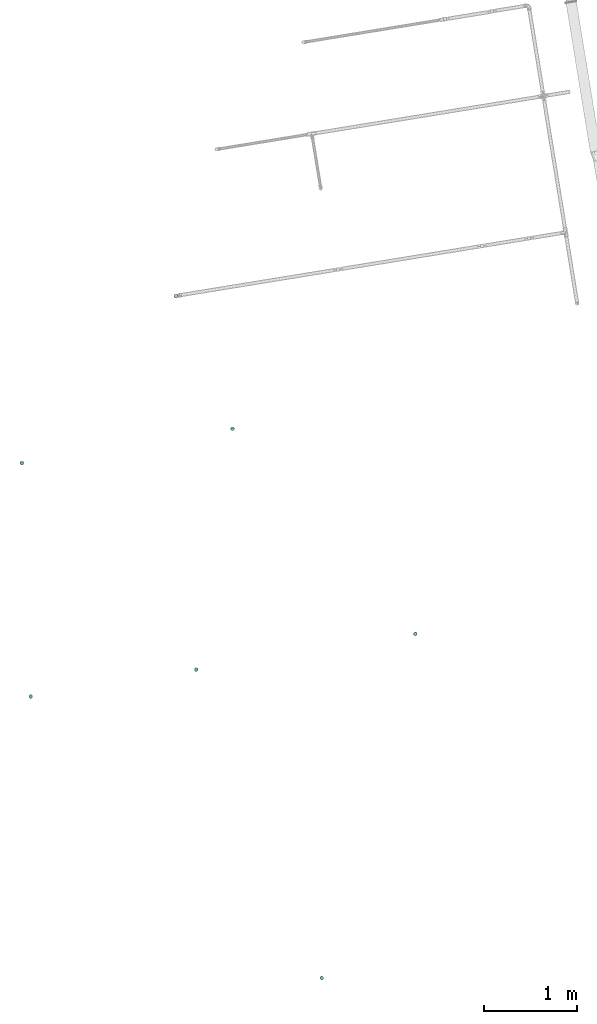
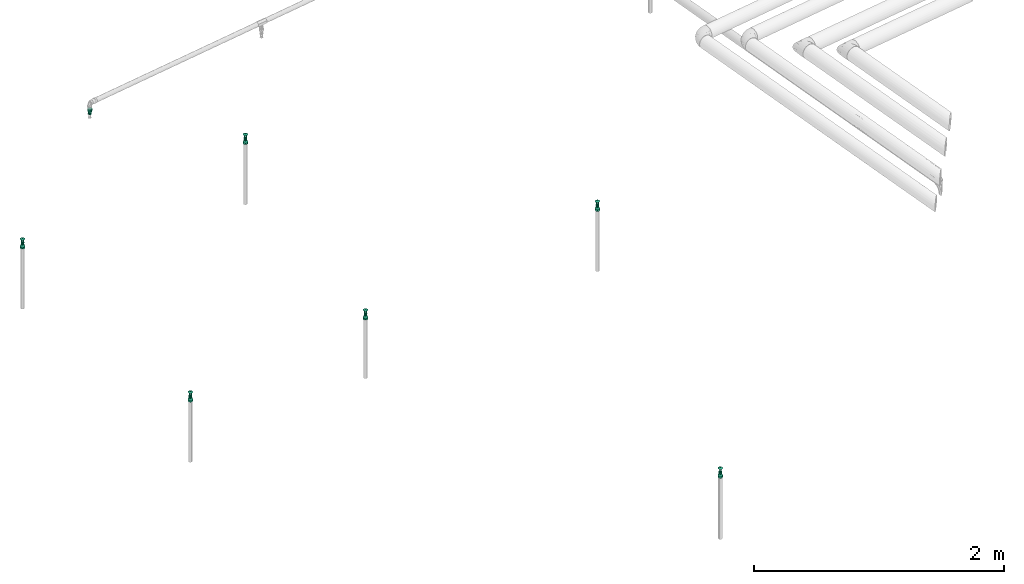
# One storey, part 27 of 46: 7 flow fittings, 6 flow terminals.
"""IFC2X3 building model written with IfcOpenShell, lengths in millimetres."""

from ifc_helpers import new_model, entity, si_unit, converted_unit, derived_unit, direction, frame, origin, origin_with_axes, place, context, subcontext, project, spatial, faceted_brep, source, transform, mapped, material, type_object, element, save


model = new_model("IFC2X3")

# Units and contexts
model_context = context("Model", 3, precision=0.01, world=origin(), true_north=direction((6.12323399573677e-17, 1.0)))
plan_context = context("Plan", 3, precision=1e-05, world=origin_with_axes())
body_context = subcontext(model_context, "Body", "Model", "MODEL_VIEW")
ifc_project = project(units=[converted_unit("PLANEANGLEUNIT", "DEGREE", entity("IfcPositiveLengthMeasure", 0.0174532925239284), si_unit("PLANEANGLEUNIT", "RADIAN"), dimensions=[0, 0, 0, 0, 0, 0, 0]), si_unit("AREAUNIT", "SQUARE_METRE"), si_unit("LENGTHUNIT", "METRE", prefix="MILLI"), si_unit("MASSUNIT", "GRAM", prefix="KILO"), si_unit("POWERUNIT", "WATT"), si_unit("PRESSUREUNIT", "PASCAL", prefix="KILO"), si_unit("FORCEUNIT", "NEWTON", prefix="KILO"), si_unit("ELECTRICVOLTAGEUNIT", "VOLT"), si_unit("ELECTRICCURRENTUNIT", "AMPERE"), si_unit("THERMODYNAMICTEMPERATUREUNIT", "DEGREE_CELSIUS"), si_unit("TIMEUNIT", "SECOND"), si_unit("VOLUMEUNIT", "CUBIC_METRE"), derived_unit("LINEARVELOCITYUNIT", [(si_unit("LENGTHUNIT", "METRE"), 1), (si_unit("TIMEUNIT", "SECOND"), -1)]), derived_unit("VOLUMETRICFLOWRATEUNIT", [(si_unit("VOLUMEUNIT", "CUBIC_METRE"), 1), (si_unit("TIMEUNIT", "SECOND"), -1)]), derived_unit("THERMALTRANSMITTANCEUNIT", [(si_unit("POWERUNIT", "WATT"), 1), (si_unit("THERMODYNAMICTEMPERATUREUNIT", "KELVIN"), -1), (si_unit("AREAUNIT", "SQUARE_METRE"), -1)]), derived_unit("SOUNDPRESSUREUNIT", [(si_unit("PRESSUREUNIT", "PASCAL"), 1)])], contexts=[model_context, plan_context])

# Site, building, storey
site_placement = place(None, frame((-3.09682673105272e-06, 1.93776733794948e-05, 0.0), z_axis=(0.0, 0.0, 1.0), x_axis=(-0.160806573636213, 0.986985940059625, 0.0)))
site = spatial("IfcSite", under=ifc_project, at=site_placement, Name="Default", CompositionType="ELEMENT")
building_placement = place(site_placement, frame((0.0, 0.0, 0.0), z_axis=(0.0, 0.0, 1.0), x_axis=(1.0, -2.77555756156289e-17, 0.0)))
building = spatial("IfcBuilding", under=site, at=building_placement, Name="Bygning (endres i Project Information)", CompositionType="ELEMENT")
storey_placement = place(building_placement, frame((0.0, 0.0, 51360.0000000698), z_axis=(0.0, 0.0, 1.0), x_axis=(1.0, -2.77555756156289e-17, 0.0)))
storey = spatial("IfcBuildingStorey", under=building, at=storey_placement, Name="H01-Nivå D+0,36", CompositionType="ELEMENT", Elevation=51360.0000000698)

# Flow fittings
ifc_material = material(Name="3320.001")
pipe_fitting_type_1 = type_object("IfcPipeFittingType", Name="RS_53_PIF_UN_Reducing-Socket-EN10241_MC_gen:RS_53_PIF_UN_Reducing-Socket-EN10241_MC_gen", PredefinedType="NOTDEFINED", material=ifc_material)
shared_shape_1 = source(origin(), body_context, "Body", "Brep", [
    faceted_brep([(0.0, 3.49405710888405, 13.0399986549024), (0.0, 6.75000000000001, 11.6913429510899), (0.0, 9.5459415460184, 9.54594154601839), (0.0, 11.6913429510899, 6.74999999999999), (0.0, 13.0399986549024, 3.49405710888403), (0.0, 13.5, 0.0), (0.0, 13.0399986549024, -3.49405710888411), (0.0, 11.6913429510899, -6.75000000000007), (0.0, 9.54594154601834, -9.54594154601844), (0.0, 6.74999999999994, -11.69134295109), (0.0, 3.49405710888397, -13.0399986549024), (0.0, 0.0, -13.5), (0.0, -3.49405710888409, -13.0399986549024), (0.0, -6.75000000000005, -11.6913429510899), (0.0, -9.54594154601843, -9.54594154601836), (0.0, -11.6913429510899, -6.74999999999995), (0.0, -13.0399986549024, -3.49405710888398), (0.0, -13.5, 0.0), (0.0, -13.0399986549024, 3.49405710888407), (0.0, -11.6913429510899, 6.75000000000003), (0.0, -9.54594154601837, 9.54594154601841), (0.0, -6.74999999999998, 11.6913429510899), (0.0, -3.49405710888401, 13.0399986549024), (0.0, 0.0, 13.5), (17.0, -4.54589529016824, -12.4935366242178), (17.0, -10.3411162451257, -8.67820919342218), (17.0, -11.5134189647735, -6.64791735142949), (17.0, -12.6857216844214, -4.61762550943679), (17.0, -6.74902240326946, -11.6919073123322), (17.0, -8.54506932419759, -10.1850582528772), (17.0, -13.0928608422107, -2.30881275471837), (17.0, -13.5, 0.0), (17.0, -2.34276817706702, -13.2951659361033), (17.0, 2.34610313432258, -13.2945778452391), (17.0, 0.00166747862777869, -13.2948718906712), (17.0, 8.54762393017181, -10.1829144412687), (17.0, 4.5490290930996, -12.4923959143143), (17.0, 6.75195505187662, -11.6902139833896), (17.0, 12.6868795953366, -4.61444320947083), (17.0, 11.5150862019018, -6.6450290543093), (17.0, 10.343292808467, -8.67561489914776), (17.0, 13.5, 0.0), (17.0, 10.3432928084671, 8.67561489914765), (17.0, 11.5150862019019, 6.64502905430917), (17.0, 12.6868795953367, 4.61444320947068), (17.0, 6.75195505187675, 11.6902139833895), (17.0, 8.54762393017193, 10.1829144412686), (17.0, 2.34610313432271, 13.2945778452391), (17.0, 4.54902909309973, 12.4923959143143), (17.0, -2.3427681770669, 13.2951659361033), (17.0, 0.00166747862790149, 13.2948718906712), (17.0, -12.6857216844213, 4.61762550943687), (17.0, -8.5450693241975, 10.1850582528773), (17.0, -13.0928608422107, 2.30881275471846), (17.0, -11.5134189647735, 6.64791735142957), (17.0, -10.3411162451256, 8.67820919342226), (17.0, -4.54589529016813, 12.4935366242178), (17.0, -6.74902240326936, 11.6919073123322), (34.0, -18.5588149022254, -6.75521201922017), (34.0, 18.5598439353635, -6.75238425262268), (34.0, -9.87413131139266, -17.104503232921), (34.0, -3.42823440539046, -19.4501853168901), (34.0, 0.00148173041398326, -19.4499240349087), (34.0, -6.65118285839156, -18.2773442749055), (34.0, -12.5015396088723, -14.9000353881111), (34.0, -15.1289479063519, -12.6955675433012), (34.0, -16.8438814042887, -9.72538978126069), (34.0, -19.1648351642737, -3.3184704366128), (34.0, 9.87673730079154, -17.1029985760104), (34.0, 15.1308820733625, -12.6932622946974), (34.0, 3.43119786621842, -19.4496627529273), (34.0, 6.65396758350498, -18.2763306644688), (34.0, 16.845363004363, -9.72282327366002), (34.0, 12.503809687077, -14.8981304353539), (34.0, 19.7500000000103, 0.0), (34.0, -19.7499999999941, 0.0), (34.0, -19.1544074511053, 3.37760600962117), (34.0, -6.65118285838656, 18.2773442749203), (34.0, -12.5015396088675, 14.9000353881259), (34.0, 3.43119786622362, 19.4496627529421), (34.0, 6.65396758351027, 18.2763306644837), (34.0, 9.87673730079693, 17.1029985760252), (34.0, 12.5038096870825, 14.8981304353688), (34.0, 15.1308820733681, 12.6932622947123), (34.0, 16.8453630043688, 9.72282327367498), (34.0, 18.5598439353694, 6.75238425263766), (34.0, -16.843881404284, 9.7253897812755), (34.0, -18.5588149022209, 6.75521201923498), (34.0, -3.42823440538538, 19.4501853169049), (34.0, 0.00148173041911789, 19.4499240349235), (34.0, -9.87413131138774, 17.1045032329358), (34.0, -15.1289479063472, 12.695567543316), (51.0, 5.11167614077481, -19.0770350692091), (51.0, 9.87500000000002, -17.1040017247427), (51.0, 13.9653589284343, -13.9653589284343), (51.0, 17.1040017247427, -9.87499999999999), (51.0, 19.0770350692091, -5.11167614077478), (51.0, 19.75, 0.0), (51.0, 19.0770350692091, 5.1116761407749), (51.0, 17.1040017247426, 9.8750000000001), (51.0, 13.9653589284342, 13.9653589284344), (51.0, 9.87499999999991, 17.1040017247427), (51.0, 5.11167614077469, 19.0770350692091), (51.0, 0.0, 19.75), (51.0, -5.11167614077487, 19.0770350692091), (51.0, -9.87500000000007, 17.1040017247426), (51.0, -13.9653589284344, 13.9653589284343), (51.0, -17.1040017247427, 9.87499999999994), (51.0, -19.0770350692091, 5.11167614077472), (51.0, -19.75, 0.0), (51.0, -19.0770350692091, -5.11167614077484), (51.0, -17.1040017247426, -9.87500000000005), (51.0, -13.9653589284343, -13.9653589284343), (51.0, -9.87499999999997, -17.1040017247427), (51.0, -5.11167614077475, -19.0770350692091), (51.0, 0.0, -19.75)], [[[0, 1, 2, 3, 4, 5, 6, 7, 8, 9, 10, 11, 12, 13, 14, 15, 16, 17, 18, 19, 20, 21, 22, 23]], [[24, 13, 12]], [[15, 14, 25]], [[15, 25, 26, 27]], [[28, 29, 13]], [[16, 27, 30]], [[30, 31, 17]], [[30, 17, 16]], [[12, 32, 24]], [[25, 14, 29]], [[11, 33, 34, 32]], [[35, 9, 8]], [[13, 29, 14]], [[24, 28, 13]], [[33, 11, 10]], [[36, 9, 37]], [[7, 38, 39, 40]], [[9, 36, 10]], [[7, 6, 38]], [[8, 40, 35]], [[33, 10, 36]], [[11, 32, 12]], [[7, 40, 8]], [[6, 41, 38]], [[15, 27, 16]], [[6, 5, 41]], [[35, 37, 9]], [[41, 5, 4]], [[3, 2, 42]], [[3, 42, 43, 44]], [[45, 46, 1]], [[44, 41, 4]], [[0, 47, 48]], [[42, 2, 46]], [[23, 49, 50, 47]], [[1, 46, 2]], [[48, 1, 0]], [[48, 45, 1]], [[3, 44, 4]], [[22, 49, 23]], [[19, 18, 51]], [[52, 21, 20]], [[17, 53, 18]], [[19, 51, 54, 55]], [[17, 31, 53]], [[56, 49, 22]], [[21, 57, 56]], [[19, 55, 20]], [[21, 56, 22]], [[20, 55, 52]], [[23, 47, 0]], [[53, 51, 18]], [[52, 57, 21]], [[58, 30, 27]], [[38, 59, 39]], [[28, 60, 29]], [[61, 32, 62]], [[63, 60, 28]], [[64, 65, 25]], [[64, 25, 29]], [[66, 58, 27]], [[66, 27, 26]], [[67, 31, 30]], [[26, 65, 66]], [[62, 32, 34]], [[25, 65, 26]], [[37, 68, 36]], [[29, 60, 64]], [[40, 69, 35]], [[34, 33, 70]], [[71, 70, 33]], [[71, 33, 36]], [[34, 70, 62]], [[72, 69, 40]], [[73, 68, 37]], [[74, 38, 41]], [[31, 67, 75]], [[39, 59, 72]], [[32, 61, 24]], [[35, 69, 73]], [[74, 59, 38]], [[58, 67, 30]], [[63, 28, 24]], [[24, 61, 63]], [[73, 37, 35]], [[36, 68, 71]], [[72, 40, 39]], [[41, 44, 74]], [[31, 76, 53]], [[57, 77, 56]], [[55, 78, 52]], [[47, 79, 80]], [[45, 81, 82]], [[46, 83, 42]], [[42, 83, 84]], [[43, 85, 44]], [[74, 44, 85]], [[46, 82, 83]], [[84, 85, 43]], [[51, 86, 54]], [[87, 51, 53]], [[81, 48, 80]], [[48, 81, 45]], [[49, 88, 89]], [[77, 57, 90]], [[56, 88, 49]], [[50, 79, 47]], [[86, 51, 87]], [[78, 55, 91]], [[75, 76, 31]], [[47, 80, 48]], [[77, 88, 56]], [[49, 89, 50]], [[86, 91, 54]], [[53, 76, 87]], [[45, 82, 46]], [[90, 52, 78]], [[42, 84, 43]], [[52, 90, 57]], [[50, 89, 79]], [[54, 91, 55]], [[92, 93, 94, 95, 96, 97, 98, 99, 100, 101, 102, 103, 104, 105, 106, 107, 108, 109, 110, 111, 112, 113, 114, 115]], [[74, 97, 96]], [[95, 94, 69]], [[95, 69, 72, 59]], [[68, 73, 93]], [[59, 74, 96]], [[92, 70, 71]], [[69, 94, 73]], [[115, 61, 62, 70]], [[93, 73, 94]], [[61, 115, 114]], [[111, 65, 112]], [[63, 113, 60]], [[95, 59, 96]], [[71, 68, 93]], [[64, 60, 113]], [[109, 75, 67]], [[113, 63, 114]], [[112, 65, 64]], [[61, 114, 63]], [[71, 93, 92]], [[109, 67, 110]], [[58, 111, 110]], [[110, 67, 58]], [[64, 113, 112]], [[66, 65, 111, 58]], [[115, 70, 92]], [[77, 105, 104]], [[107, 106, 91]], [[107, 91, 86, 87]], [[90, 78, 105]], [[108, 87, 76]], [[76, 109, 108]], [[107, 87, 108]], [[104, 88, 77]], [[91, 106, 78]], [[103, 79, 89, 88]], [[77, 90, 105]], [[105, 78, 106]], [[76, 75, 109]], [[79, 103, 102]], [[80, 101, 81]], [[99, 85, 84, 83]], [[101, 80, 102]], [[99, 98, 85]], [[100, 83, 82]], [[79, 102, 80]], [[99, 83, 100]], [[82, 81, 101]], [[98, 74, 85]], [[98, 97, 74]], [[103, 88, 104]], [[82, 101, 100]]]),
])
flow_fitting_1_placement = place(storey_placement, frame((1002297.38520526, -342381.062917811, 3353.0), z_axis=(1.0, -2.77555756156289e-17, 0.0), x_axis=(0.0, 0.0, 1.0)))
element("IfcFlowFitting", 1, at=flow_fitting_1_placement, inside=storey, type_object=pipe_fitting_type_1, material=ifc_material, Name="RS_53_PIF_UN_Reducing-Socket-EN10241_MC_gen:RS_53_PIF_UN_Reducing-Socket-EN10241_MC_gen", ObjectType="RS_53_PIF_UN_Reducing-Socket-EN10241_MC_gen:RS_53_PIF_UN_Reducing-Socket-EN10241_MC_gen", context=body_context, shape_type="MappedRepresentation", body=[
    mapped(shared_shape_1, transform((0.0, 0.0, 0.0), scale=1.0)),
])
pipe_fitting_type_2 = type_object("IfcPipeFittingType", Name="RS_53_PIF_UN_Reducing-Socket-EN10241_MC_gen:RS_53_PIF_UN_Reducing-Socket-EN10241_MC_gen", PredefinedType="NOTDEFINED", material=ifc_material)
flow_fitting_2_placement = place(storey_placement, frame((994788.367643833, -342750.8112969, 3770.81212530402), z_axis=(-2.77555756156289e-17, -1.0, 0.0), x_axis=(0.0, 0.0, -1.0)))
element("IfcFlowFitting", 2, at=flow_fitting_2_placement, inside=storey, type_object=pipe_fitting_type_2, material=ifc_material, Name="RS_53_PIF_UN_Reducing-Socket-EN10241_MC_gen:RS_53_PIF_UN_Reducing-Socket-EN10241_MC_gen", ObjectType="RS_53_PIF_UN_Reducing-Socket-EN10241_MC_gen:RS_53_PIF_UN_Reducing-Socket-EN10241_MC_gen", context=body_context, shape_type="MappedRepresentation", body=[
    mapped(shared_shape_1, transform((0.0, 0.0, 0.0), scale=1.0)),
])
pipe_fitting_type_3 = type_object("IfcPipeFittingType", Name="RS_53_PIF_UN_Reducing-Socket-EN10241_MC_gen:RS_53_PIF_UN_Reducing-Socket-EN10241_MC_gen", PredefinedType="NOTDEFINED", material=ifc_material)
shared_shape_2 = source(origin(), body_context, "Body", "Brep", [
    faceted_brep([(0.0, 5.11167614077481, 19.0770350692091), (0.0, 9.87500000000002, 17.1040017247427), (0.0, 13.9653589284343, 13.9653589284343), (0.0, 17.1040017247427, 9.87499999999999), (0.0, 19.0770350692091, 5.11167614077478), (0.0, 19.75, 0.0), (0.0, 19.0770350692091, -5.1116761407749), (0.0, 17.1040017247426, -9.8750000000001), (0.0, 13.9653589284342, -13.9653589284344), (0.0, 9.87499999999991, -17.1040017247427), (0.0, 5.11167614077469, -19.0770350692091), (0.0, 0.0, -19.75), (0.0, -5.11167614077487, -19.0770350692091), (0.0, -9.87500000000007, -17.1040017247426), (0.0, -13.9653589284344, -13.9653589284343), (0.0, -17.1040017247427, -9.87499999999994), (0.0, -19.0770350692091, -5.11167614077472), (0.0, -19.75, 0.0), (0.0, -19.0770350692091, 5.11167614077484), (0.0, -17.1040017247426, 9.87500000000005), (0.0, -13.9653589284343, 13.9653589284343), (0.0, -9.87499999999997, 17.1040017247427), (0.0, -5.11167614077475, 19.0770350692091), (0.0, 0.0, 19.75), (17.0, -6.65118285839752, -18.277344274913), (17.0, -15.1289479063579, -12.6955675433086), (17.0, -16.8438814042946, -9.72538978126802), (17.0, -18.5588149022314, -6.7552120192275), (17.0, -9.87413131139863, -17.1045032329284), (17.0, -12.5015396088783, -14.9000353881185), (17.0, -19.1544074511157, -3.37760600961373), (17.0, -3.42823440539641, -19.4501853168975), (17.0, 3.43119786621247, -19.4496627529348), (17.0, 0.0014817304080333, -19.4499240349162), (17.0, -19.75, 0.0), (17.0, 6.65396758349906, -18.2763306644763), (17.0, 9.87673730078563, -17.1029985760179), (17.0, 18.5598439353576, -6.75238425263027), (17.0, 16.8453630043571, -9.7228232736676), (17.0, 15.1308820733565, -12.6932622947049), (17.0, 12.5038096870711, -14.8981304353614), (17.0, 19.75, 0.0), (17.0, 15.1308820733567, 12.6932622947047), (17.0, 16.8453630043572, 9.72282327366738), (17.0, 18.5598439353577, 6.75238425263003), (17.0, 9.87673730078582, 17.1029985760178), (17.0, 12.5038096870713, 14.8981304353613), (17.0, 3.43119786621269, 19.4496627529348), (17.0, 6.65396758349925, 18.2763306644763), (17.0, -3.4282344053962, 19.4501853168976), (17.0, 0.00148173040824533, 19.4499240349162), (17.0, -15.1289479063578, 12.6955675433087), (17.0, -6.65118285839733, 18.277344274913), (17.0, -9.87413131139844, 17.1045032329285), (17.0, -12.5015396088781, 14.9000353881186), (17.0, -19.1544074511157, 3.37760600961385), (17.0, -18.5588149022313, 6.75521201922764), (17.0, -16.8438814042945, 9.72538978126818), (34.0, 13.5000000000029, 0.0), (34.0, 12.6868795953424, -4.61444320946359), (34.0, -4.54589529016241, -12.4935366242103), (34.0, -2.34276817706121, -13.2951659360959), (34.0, 6.75195505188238, -11.6902139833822), (34.0, 0.00166747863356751, -13.2948718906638), (34.0, 2.34610313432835, -13.2945778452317), (34.0, 10.3432928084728, -8.67561489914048), (34.0, 8.54762393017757, -10.1829144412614), (34.0, 4.54902909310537, -12.492395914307), (34.0, 11.5150862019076, -6.64502905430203), (34.0, -6.74902240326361, -11.6919073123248), (34.0, -13.4999999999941, 0.0), (34.0, -13.0928608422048, -2.30881275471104), (34.0, -10.3411162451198, -8.6782091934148), (34.0, -8.54506932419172, -10.1850582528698), (34.0, -12.6857216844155, -4.61762550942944), (34.0, -11.5134189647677, -6.64791735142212), (34.0, -13.0928608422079, 2.30881275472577), (34.0, -12.6857216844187, 4.6176255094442), (34.0, 2.34610313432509, 13.2945778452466), (34.0, 4.54902909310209, 12.4923959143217), (34.0, -10.3411162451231, 8.67820919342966), (34.0, 0.00166747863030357, 13.2948718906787), (34.0, -6.74902240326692, 11.6919073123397), (34.0, -8.54506932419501, 10.1850582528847), (34.0, -11.5134189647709, 6.64791735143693), (34.0, -2.34276817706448, 13.2951659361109), (34.0, -4.5458952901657, 12.4935366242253), (34.0, 12.6868795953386, 4.61444320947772), (34.0, 11.5150862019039, 6.64502905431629), (34.0, 10.3432928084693, 8.67561489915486), (34.0, 6.7519550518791, 11.6902139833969), (34.0, 8.54762393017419, 10.1829144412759), (51.0, 3.49405710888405, -13.0399986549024), (51.0, 6.75000000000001, -11.6913429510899), (51.0, 9.5459415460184, -9.54594154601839), (51.0, 11.6913429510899, -6.74999999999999), (51.0, 13.0399986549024, -3.49405710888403), (51.0, 13.5, 0.0), (51.0, 13.0399986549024, 3.49405710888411), (51.0, 11.6913429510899, 6.75000000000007), (51.0, 9.54594154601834, 9.54594154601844), (51.0, 6.74999999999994, 11.69134295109), (51.0, 3.49405710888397, 13.0399986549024), (51.0, 0.0, 13.5), (51.0, -3.49405710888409, 13.0399986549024), (51.0, -6.75000000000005, 11.6913429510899), (51.0, -9.54594154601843, 9.54594154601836), (51.0, -11.6913429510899, 6.74999999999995), (51.0, -13.0399986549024, 3.49405710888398), (51.0, -13.5, 0.0), (51.0, -13.0399986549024, -3.49405710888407), (51.0, -11.6913429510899, -6.75000000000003), (51.0, -9.54594154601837, -9.54594154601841), (51.0, -6.74999999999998, -11.6913429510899), (51.0, -3.49405710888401, -13.0399986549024), (51.0, 0.0, -13.5)], [[[0, 1, 2, 3, 4, 5, 6, 7, 8, 9, 10, 11, 12, 13, 14, 15, 16, 17, 18, 19, 20, 21, 22, 23]], [[24, 13, 12]], [[15, 14, 25]], [[15, 25, 26, 27]], [[28, 29, 13]], [[16, 27, 30]], [[30, 17, 16]], [[15, 27, 16]], [[12, 31, 24]], [[25, 14, 29]], [[11, 32, 33, 31]], [[24, 28, 13]], [[13, 29, 14]], [[30, 34, 17]], [[32, 11, 10]], [[35, 9, 36]], [[7, 37, 38, 39]], [[9, 35, 10]], [[7, 6, 37]], [[8, 39, 40]], [[32, 10, 35]], [[7, 39, 8]], [[40, 36, 9]], [[6, 41, 37]], [[6, 5, 41]], [[11, 31, 12]], [[40, 9, 8]], [[41, 5, 4]], [[3, 2, 42]], [[3, 42, 43, 44]], [[45, 46, 1]], [[44, 41, 4]], [[0, 47, 48]], [[42, 2, 46]], [[23, 49, 50, 47]], [[1, 46, 2]], [[49, 23, 22]], [[19, 51, 20]], [[52, 21, 53]], [[3, 44, 4]], [[48, 45, 1]], [[54, 53, 21]], [[17, 34, 55]], [[21, 52, 22]], [[20, 51, 54]], [[49, 22, 52]], [[48, 1, 0]], [[17, 55, 18]], [[56, 19, 18]], [[18, 55, 56]], [[54, 21, 20]], [[57, 51, 19, 56]], [[23, 47, 0]], [[41, 58, 59]], [[60, 31, 61]], [[40, 62, 36]], [[63, 32, 64]], [[65, 39, 38]], [[64, 32, 35]], [[61, 33, 63]], [[37, 41, 59]], [[62, 40, 66]], [[40, 39, 66]], [[35, 36, 67]], [[65, 38, 68]], [[37, 68, 38]], [[64, 35, 67]], [[61, 31, 33]], [[69, 28, 24]], [[69, 24, 60]], [[70, 30, 71]], [[72, 29, 73]], [[30, 70, 34]], [[74, 27, 26]], [[68, 37, 59]], [[72, 25, 29]], [[27, 74, 71]], [[31, 60, 24]], [[29, 28, 73]], [[75, 26, 25]], [[67, 36, 62]], [[66, 39, 65]], [[27, 71, 30]], [[74, 26, 75]], [[73, 28, 69]], [[63, 33, 32]], [[75, 25, 72]], [[56, 76, 77]], [[48, 78, 79]], [[54, 51, 80]], [[81, 47, 50]], [[57, 56, 77]], [[52, 53, 82]], [[82, 53, 83]], [[55, 70, 76]], [[70, 55, 34]], [[84, 51, 57]], [[50, 85, 81]], [[56, 55, 76]], [[86, 49, 52]], [[83, 53, 54]], [[81, 78, 47]], [[48, 47, 78]], [[80, 51, 84]], [[49, 85, 50]], [[87, 44, 88]], [[87, 58, 41]], [[43, 42, 89]], [[57, 77, 84]], [[46, 45, 90]], [[85, 49, 86]], [[88, 44, 43]], [[54, 80, 83]], [[91, 42, 46]], [[52, 82, 86]], [[89, 42, 91]], [[87, 41, 44]], [[90, 45, 79]], [[46, 90, 91]], [[79, 45, 48]], [[43, 89, 88]], [[92, 93, 94, 95, 96, 97, 98, 99, 100, 101, 102, 103, 104, 105, 106, 107, 108, 109, 110, 111, 112, 113, 114, 115]], [[58, 97, 96]], [[95, 94, 65]], [[95, 65, 68, 59]], [[62, 66, 93]], [[59, 58, 96]], [[92, 64, 67]], [[65, 94, 66]], [[115, 61, 63, 64]], [[93, 66, 94]], [[67, 93, 92]], [[67, 62, 93]], [[95, 59, 96]], [[114, 61, 115]], [[111, 110, 74]], [[73, 113, 112]], [[109, 71, 110]], [[111, 74, 75, 72]], [[109, 70, 71]], [[60, 61, 114]], [[113, 69, 60]], [[111, 72, 112]], [[113, 60, 114]], [[112, 72, 73]], [[115, 64, 92]], [[71, 74, 110]], [[73, 69, 113]], [[86, 105, 104]], [[107, 106, 80]], [[107, 80, 84, 77]], [[82, 83, 105]], [[108, 77, 76]], [[76, 70, 109]], [[76, 109, 108]], [[104, 85, 86]], [[80, 106, 83]], [[103, 78, 81, 85]], [[91, 101, 100]], [[105, 83, 106]], [[86, 82, 105]], [[78, 103, 102]], [[79, 101, 90]], [[99, 87, 88, 89]], [[101, 79, 102]], [[99, 98, 87]], [[100, 89, 91]], [[78, 102, 79]], [[103, 85, 104]], [[99, 89, 100]], [[98, 58, 87]], [[107, 77, 108]], [[98, 97, 58]], [[91, 90, 101]]]),
])
for number, where, z_axis, x_axis in (
    (3, (1000788.36764383, -342753.710293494, 3719.81211897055), (2.77555756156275e-17, 0.99999999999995, 3.16675188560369e-07), (-6.61744490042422e-24, -3.16675188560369e-07, 0.99999999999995)),
    (4, (1000788.36764383, -340453.710293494, 3719.81211897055), (2.77555756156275e-17, 0.99999999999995, 3.16675188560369e-07), (-6.61744490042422e-24, -3.16675188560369e-07, 0.99999999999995)),
    (5, (998288.367643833, -344342.799023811, 3719.81212530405), (2.77555756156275e-17, 0.99999999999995, 3.16675188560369e-07), (-6.61744490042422e-24, -3.16675188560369e-07, 0.99999999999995)),
    (6, (998288.367643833, -341949.81048387, 3719.81212530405), (2.77555756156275e-17, 0.99999999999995, 3.16675188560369e-07), (-6.61744490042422e-24, -3.16675188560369e-07, 0.99999999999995)),
    (7, (998288.367643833, -340142.799023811, 3719.81212530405), (2.77555756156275e-17, 0.99999999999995, 3.16675188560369e-07), (-6.61744490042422e-24, -3.16675188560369e-07, 0.99999999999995)),
):
    element("IfcFlowFitting", number, at=place(storey_placement, frame(where, z_axis=z_axis, x_axis=x_axis)), inside=storey, type_object=pipe_fitting_type_3, material=ifc_material, Name="RS_53_PIF_UN_Reducing-Socket-EN10241_MC_gen:RS_53_PIF_UN_Reducing-Socket-EN10241_MC_gen", ObjectType="RS_53_PIF_UN_Reducing-Socket-EN10241_MC_gen:RS_53_PIF_UN_Reducing-Socket-EN10241_MC_gen", context=body_context, shape_type="MappedRepresentation", body=[
        mapped(shared_shape_2, transform((0.0, 0.0, 0.0), scale=1.0)),
    ])

# Flow terminals
fire_suppression_terminal_type = type_object("IfcFireSuppressionTerminalType", Name="SU-15-K80-68DGR-STD:SU-15-K80-68DGR-STD", PredefinedType="NOTDEFINED", material=ifc_material)
shared_shape_3 = source(origin(), body_context, "Body", "Brep", [
    faceted_brep([(-2.5, 0.0, 62.0), (0.0, -2.5, 62.0), (2.5, 0.0, 62.0), (0.0, 2.5, 62.0), (0.0, 2.5, 59.0), (2.5, 0.0, 59.0), (0.0, -2.5, 59.0), (-2.5, 0.0, 59.0)], [[[0, 1, 2, 3]], [[4, 5, 6, 7]], [[3, 4, 7, 0]], [[2, 5, 4, 3]], [[1, 6, 5, 2]], [[0, 7, 6, 1]]]),
    faceted_brep([(1.0, 13.5, 47.0), (1.0, -13.5, 47.0), (1.0, -13.5, 19.0), (1.0, -8.5, 19.0), (1.0, -8.5, 42.0), (1.0, 8.5, 42.0), (1.0, 8.5, 19.0), (1.0, 13.5, 19.0), (-1.0, 13.5, 47.0), (-1.0, 13.5, 19.0), (-1.0, 8.5, 19.0), (-1.0, 8.5, 42.0), (-1.0, -8.5, 42.0), (-1.0, -8.5, 19.0), (-1.0, -13.5, 19.0), (-1.0, -13.5, 47.0)], [[[0, 1, 2, 3, 4, 5, 6, 7]], [[8, 9, 10, 11, 12, 13, 14, 15]], [[7, 9, 8, 0]], [[6, 10, 9, 7]], [[5, 11, 10, 6]], [[4, 12, 11, 5]], [[3, 13, 12, 4]], [[2, 14, 13, 3]], [[1, 15, 14, 2]], [[0, 8, 15, 1]]]),
    faceted_brep([(-13.5, -1.0, 47.0), (-13.5, -1.0, 19.0), (-8.5, -1.0, 19.0), (-8.5, -1.0, 42.0), (8.5, -1.0, 42.0), (8.5, -1.0, 19.0), (13.5, -1.0, 19.0), (13.5, -1.0, 47.0), (-13.5, 1.0, 47.0), (13.5, 1.0, 47.0), (13.5, 1.0, 19.0), (8.5, 1.0, 19.0), (8.5, 1.0, 42.0), (-8.5, 1.0, 42.0), (-8.5, 1.0, 19.0), (-13.5, 1.0, 19.0)], [[[0, 1, 2, 3, 4, 5, 6, 7]], [[8, 9, 10, 11, 12, 13, 14, 15]], [[7, 9, 8, 0]], [[6, 10, 9, 7]], [[5, 11, 10, 6]], [[4, 12, 11, 5]], [[3, 13, 12, 4]], [[2, 14, 13, 3]], [[1, 15, 14, 2]], [[0, 8, 15, 1]]]),
    faceted_brep([(2.5, 0.0, 59.0), (0.0, 2.5, 59.0), (-2.5, 0.0, 59.0), (0.0, -2.5, 59.0), (-6.48935688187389, -19.9721868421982, 53.0), (-16.9893568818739, -12.3434902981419, 53.0), (-21.0, 0.0, 53.0), (-16.9893568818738, 12.343490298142, 53.0), (-6.48935688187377, 19.9721868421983, 53.0), (6.48935688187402, 19.9721868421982, 53.0), (16.989356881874, 12.3434902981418, 53.0), (21.0, 0.0, 53.0), (16.9893568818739, -12.3434902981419, 53.0), (6.4893568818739, -19.9721868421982, 53.0)], [[[0, 1, 2, 3]], [[4, 5, 6, 7, 8, 9, 10, 11, 12, 13]], [[10, 0, 11]], [[10, 9, 1]], [[1, 0, 10]], [[7, 2, 1]], [[8, 7, 1]], [[6, 2, 7]], [[9, 8, 1]], [[5, 2, 6]], [[5, 4, 3]], [[3, 2, 5]], [[12, 0, 3]], [[13, 12, 3]], [[11, 0, 12]], [[4, 13, 3]]]),
    faceted_brep([(-2.5, 0.0, 53.0), (0.0, -2.5, 53.0), (2.5, 0.0, 53.0), (0.0, 2.5, 53.0), (0.0, 2.5, 19.0), (2.5, 0.0, 19.0), (0.0, -2.5, 19.0), (-2.5, 0.0, 19.0)], [[[0, 1, 2, 3]], [[4, 5, 6, 7]], [[3, 4, 7, 0]], [[2, 5, 4, 3]], [[1, 6, 5, 2]], [[0, 7, 6, 1]]]),
    faceted_brep([(7.0, 12.1243556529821, 19.0), (3.62346663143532, 13.5229615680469, 19.0), (0.0, 14.0, 19.0), (-3.62346663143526, 13.522961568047, 19.0), (-7.0, 12.1243556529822, 19.0), (-9.89949493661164, 9.89949493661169, 19.0), (-12.1243556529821, 7.0, 19.0), (-13.5229615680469, 3.62346663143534, 19.0), (-14.0, 0.0, 19.0), (-13.5229615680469, -3.62346663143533, 19.0), (-12.1243556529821, -7.0, 19.0), (-9.89949493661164, -9.89949493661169, 19.0), (-7.0, -12.1243556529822, 19.0), (-3.62346663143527, -13.522961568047, 19.0), (0.0, -14.0, 19.0), (3.62346663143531, -13.522961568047, 19.0), (7.0, -12.1243556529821, 19.0), (9.89949493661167, -9.89949493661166, 19.0), (12.1243556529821, -7.0, 19.0), (13.522961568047, -3.62346663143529, 19.0), (14.0, 0.0, 19.0), (13.522961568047, 3.62346663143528, 19.0), (12.1243556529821, 7.0, 19.0), (9.89949493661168, 9.89949493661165, 19.0), (9.89949493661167, -9.89949493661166, 13.0), (7.0, -12.1243556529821, 13.0), (3.62346663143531, -13.522961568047, 13.0), (0.0, -14.0, 13.0), (-3.62346663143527, -13.522961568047, 13.0), (-7.0, -12.1243556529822, 13.0), (-9.89949493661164, -9.89949493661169, 13.0), (-12.1243556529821, -7.0, 13.0), (-13.5229615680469, -3.62346663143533, 13.0), (-14.0, 0.0, 13.0), (-13.5229615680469, 3.62346663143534, 13.0), (-12.1243556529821, 7.0, 13.0), (-9.89949493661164, 9.89949493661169, 13.0), (-7.0, 12.1243556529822, 13.0), (-3.62346663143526, 13.522961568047, 13.0), (0.0, 14.0, 13.0), (3.62346663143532, 13.5229615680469, 13.0), (7.0, 12.1243556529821, 13.0), (9.89949493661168, 9.89949493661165, 13.0), (12.1243556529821, 7.0, 13.0), (13.522961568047, 3.62346663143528, 13.0), (14.0, 0.0, 13.0), (13.522961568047, -3.62346663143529, 13.0), (12.1243556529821, -7.0, 13.0)], [[[0, 1, 2, 3, 4, 5, 6, 7, 8, 9, 10, 11, 12, 13, 14, 15, 16, 17, 18, 19, 20, 21, 22, 23]], [[24, 25, 26, 27, 28, 29, 30, 31, 32, 33, 34, 35, 36, 37, 38, 39, 40, 41, 42, 43, 44, 45, 46, 47]], [[33, 8, 7, 34]], [[34, 7, 6, 35]], [[37, 36, 5, 4]], [[5, 36, 35, 6]], [[38, 37, 4, 3]], [[38, 3, 2, 39]], [[39, 2, 1, 40]], [[40, 1, 0, 41]], [[43, 42, 23, 22]], [[23, 42, 41, 0]], [[44, 43, 22, 21]], [[44, 21, 20, 45]], [[45, 20, 19, 46]], [[46, 19, 18, 47]], [[25, 24, 17, 16]], [[17, 24, 47, 18]], [[26, 25, 16, 15]], [[26, 15, 14, 27]], [[27, 14, 13, 28]], [[28, 13, 12, 29]], [[31, 30, 11, 10]], [[11, 30, 29, 12]], [[32, 31, 10, 9]], [[32, 9, 8, 33]]]),
    faceted_brep([(3.75000000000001, 6.49519052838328, 13.0), (1.94114283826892, 7.24444369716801, 13.0), (0.0, 7.5, 13.0), (-1.94114283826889, 7.24444369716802, 13.0), (-3.74999999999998, 6.4951905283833, 13.0), (-5.30330085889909, 5.30330085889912, 13.0), (-6.49519052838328, 3.75000000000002, 13.0), (-7.244443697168, 1.94114283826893, 13.0), (-7.5, 0.0, 13.0), (-7.24444369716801, -1.94114283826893, 13.0), (-6.49519052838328, -3.75000000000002, 13.0), (-5.3033008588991, -5.30330085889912, 13.0), (-3.74999999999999, -6.4951905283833, 13.0), (-1.94114283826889, -7.24444369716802, 13.0), (0.0, -7.5, 13.0), (1.94114283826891, -7.24444369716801, 13.0), (3.75000000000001, -6.49519052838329, 13.0), (5.30330085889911, -5.3033008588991, 13.0), (6.49519052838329, -3.75, 13.0), (7.24444369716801, -1.9411428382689, 13.0), (7.5, 0.0, 13.0), (7.24444369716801, 1.9411428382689, 13.0), (6.49519052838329, 3.75, 13.0), (5.30330085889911, 5.3033008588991, 13.0), (5.30330085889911, -5.3033008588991, 0.0), (3.75000000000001, -6.49519052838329, 0.0), (1.94114283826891, -7.24444369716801, 0.0), (0.0, -7.5, 0.0), (-1.94114283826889, -7.24444369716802, 0.0), (-3.74999999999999, -6.4951905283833, 0.0), (-5.3033008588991, -5.30330085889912, 0.0), (-6.49519052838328, -3.75000000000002, 0.0), (-7.24444369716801, -1.94114283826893, 0.0), (-7.5, 0.0, 0.0), (-7.244443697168, 1.94114283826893, 0.0), (-6.49519052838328, 3.75000000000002, 0.0), (-5.30330085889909, 5.30330085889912, 0.0), (-3.74999999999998, 6.4951905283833, 0.0), (-1.94114283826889, 7.24444369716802, 0.0), (0.0, 7.5, 0.0), (1.94114283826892, 7.24444369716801, 0.0), (3.75000000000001, 6.49519052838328, 0.0), (5.30330085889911, 5.3033008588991, 0.0), (6.49519052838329, 3.75, 0.0), (7.24444369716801, 1.9411428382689, 0.0), (7.5, 0.0, 0.0), (7.24444369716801, -1.9411428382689, 0.0), (6.49519052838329, -3.75, 0.0)], [[[0, 1, 2, 3, 4, 5, 6, 7, 8, 9, 10, 11, 12, 13, 14, 15, 16, 17, 18, 19, 20, 21, 22, 23]], [[24, 25, 26, 27, 28, 29, 30, 31, 32, 33, 34, 35, 36, 37, 38, 39, 40, 41, 42, 43, 44, 45, 46, 47]], [[33, 8, 7, 34]], [[34, 7, 6, 35]], [[37, 36, 5, 4]], [[5, 36, 35, 6]], [[38, 37, 4, 3]], [[38, 3, 2, 39]], [[39, 2, 1, 40]], [[40, 1, 0, 41]], [[43, 42, 23, 22]], [[23, 42, 41, 0]], [[44, 43, 22, 21]], [[44, 21, 20, 45]], [[45, 20, 19, 46]], [[46, 19, 18, 47]], [[25, 24, 17, 16]], [[17, 24, 47, 18]], [[26, 25, 16, 15]], [[26, 15, 14, 27]], [[27, 14, 13, 28]], [[28, 13, 12, 29]], [[31, 30, 11, 10]], [[11, 30, 29, 12]], [[32, 31, 10, 9]], [[32, 9, 8, 33]]]),
])
for number, where, z_axis, x_axis in (
    (8, (1000788.36764383, -342753.710304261, 3753.81211897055), (0.0, 0.0, 1.0), (-1.0, 2.77555756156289e-17, 0.0)),
    (9, (1000788.36764383, -340453.710304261, 3753.81211897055), (0.0, 0.0, 1.0), (-1.0, 2.77555756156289e-17, 0.0)),
    (10, (998288.367643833, -344342.799034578, 3753.81212530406), (0.0, 0.0, 1.0), (-1.0, 2.77555756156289e-17, 0.0)),
    (11, (998288.367643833, -341949.811296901, 3753.81212530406), (0.0, 0.0, 1.0), (-1.0, 2.77555756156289e-17, 0.0)),
    (12, (998288.367643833, -340142.799034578, 3753.81212530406), (0.0, 0.0, 1.0), (-1.0, 2.77555756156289e-17, 0.0)),
    (13, (994788.367643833, -342750.8112969, 3753.81212530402), (0.0, 0.0, 1.0), (1.0, -2.77555756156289e-17, 0.0)),
):
    element("IfcFlowTerminal", number, at=place(storey_placement, frame(where, z_axis=z_axis, x_axis=x_axis)), inside=storey, type_object=fire_suppression_terminal_type, material=ifc_material, Name="SU-15-K80-68DGR-STD:SU-15-K80-68DGR-STD", ObjectType="SU-15-K80-68DGR-STD:SU-15-K80-68DGR-STD", context=body_context, shape_type="MappedRepresentation", body=[
        mapped(shared_shape_3, transform((0.0, 0.0, 0.0), scale=1.0)),
    ])

save(model, "model.ifc")
